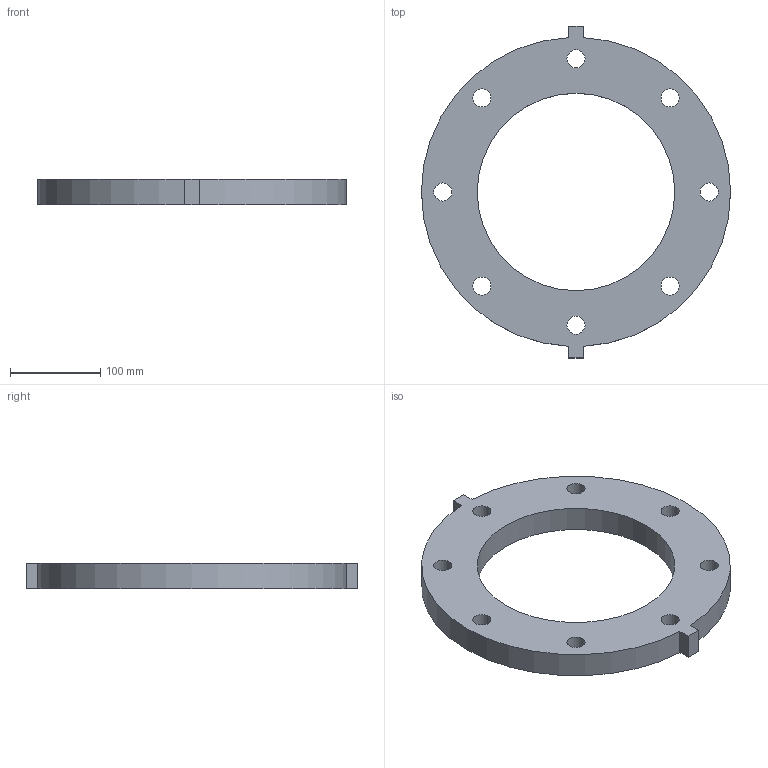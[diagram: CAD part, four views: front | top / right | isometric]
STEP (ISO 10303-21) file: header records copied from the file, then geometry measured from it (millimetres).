
FILE_DESCRIPTION(/* description */ ('VIC FLANGE ADAPTER STYLE 741 PN10 Flanges','CAx-IF Rec.Pracs.---Representation and Presentation of Product Manufacturing Information (PMI)---4.0---2014-10-13'),/* implementation_level */ '2;1');
FILE_NAME(/* name */ 'C:\Users\kkamble\AppData\Roaming\Autodesk\ApplicationPlugins\Back Up\Victaulic_IPS_Flange Adapter_PN10_Style 741 (OGSxFLG)\Victaulic_IPS_Flange Adapter_PN10_Style 741 (OGSxFLG)_8 (200).stp',/* time_stamp */ '2020-07-24T08:16:16+06:00',/* author */ ('jheald'),/* organization */ ('Victaulic'),/* preprocessor_version */ 'ST-DEVELOPER v17.2',/* originating_system */ 'Autodesk Inventor 2019',/* authorisation */ '');
FILE_SCHEMA (('AP242_MANAGED_MODEL_BASED_3D_ENGINEERING_MIM_LF { 1 0 10303 442 1 1 4 }'));
Length unit declared in the file: inch
Products named in the file (1): 741-08.0
Bounding box: 342.9 x 368.3 x 28.7 mm (x, y, z)
Volume: 1507953 mm3; surface area: 171704.4 mm2
Topology: 1 solids, 1 shells, 19 faces, 51 edges, 34 vertices
Faces by surface type: cylinder 11, plane 8
Full cylindrical faces by diameter (mm): 20.066 x8, 219.075 x1
Entity records: 703 total; most frequent: DIRECTION 113, CARTESIAN_POINT 105, ORIENTED_EDGE 102, EDGE_CURVE 51, AXIS2_PLACEMENT_3D 42, EDGE_LOOP 37, VERTEX_POINT 34, LINE 29
